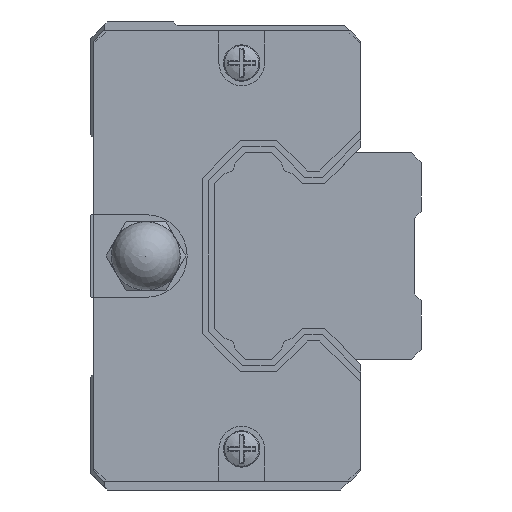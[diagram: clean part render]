
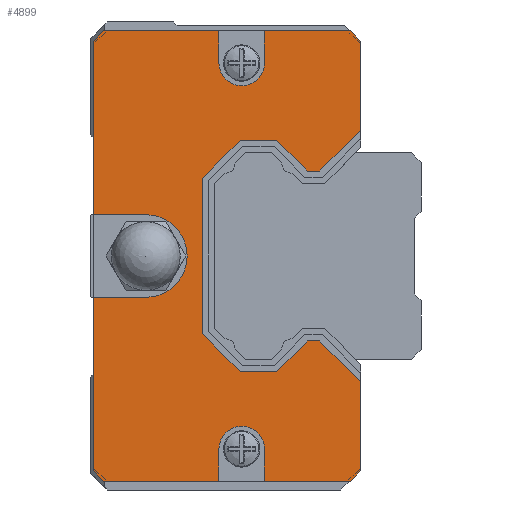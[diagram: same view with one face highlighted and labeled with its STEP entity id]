
A CAD part, left-side view. The second image highlights one B-rep face of the part: STEP entity #4899.
In plain terms, the highlighted planar face has unit normal (-1, 0, 0) as drawn and (1, 0, 0) by its records, which use the part's own axes.
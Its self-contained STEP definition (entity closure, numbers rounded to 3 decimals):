
#374=CIRCLE('',#5478,1.649);
#375=CIRCLE('',#5479,3.);
#376=CIRCLE('',#5480,1.649);
#586=FACE_OUTER_BOUND('',#944,.T.);
#944=EDGE_LOOP('',(#4057,#4058,#4059,#4060,#4061,#4062,#4063,#4064,#4065,
#4066,#4067,#4068,#4069,#4070,#4071,#4072,#4073,#4074,#4075,#4076,#4077,
#4078,#4079,#4080,#4081,#4082,#4083,#4084,#4085,#4086,#4087,#4088));
#1406=LINE('',#7994,#1915);
#1414=LINE('',#8007,#1923);
#1416=LINE('',#8011,#1925);
#1417=LINE('',#8013,#1926);
#1418=LINE('',#8015,#1927);
#1419=LINE('',#8017,#1928);
#1420=LINE('',#8019,#1929);
#1421=LINE('',#8021,#1930);
#1422=LINE('',#8023,#1931);
#1423=LINE('',#8025,#1932);
#1424=LINE('',#8027,#1933);
#1425=LINE('',#8029,#1934);
#1426=LINE('',#8030,#1935);
#1427=LINE('',#8032,#1936);
#1428=LINE('',#8034,#1937);
#1429=LINE('',#8036,#1938);
#1430=LINE('',#8040,#1939);
#1431=LINE('',#8042,#1940);
#1432=LINE('',#8044,#1941);
#1433=LINE('',#8046,#1942);
#1434=LINE('',#8048,#1943);
#1435=LINE('',#8052,#1944);
#1436=LINE('',#8054,#1945);
#1437=LINE('',#8056,#1946);
#1438=LINE('',#8058,#1947);
#1439=LINE('',#8060,#1948);
#1440=LINE('',#8064,#1949);
#1441=LINE('',#8066,#1950);
#1442=LINE('',#8067,#1951);
#1915=VECTOR('',#6550,1000.);
#1923=VECTOR('',#6560,1000.);
#1925=VECTOR('',#6564,1000.);
#1926=VECTOR('',#6565,1000.);
#1927=VECTOR('',#6566,1000.);
#1928=VECTOR('',#6567,1000.);
#1929=VECTOR('',#6568,1000.);
#1930=VECTOR('',#6569,1000.);
#1931=VECTOR('',#6570,1000.);
#1932=VECTOR('',#6571,1000.);
#1933=VECTOR('',#6572,1000.);
#1934=VECTOR('',#6573,1000.);
#1935=VECTOR('',#6574,1000.);
#1936=VECTOR('',#6575,1000.);
#1937=VECTOR('',#6576,1000.);
#1938=VECTOR('',#6577,1000.);
#1939=VECTOR('',#6580,1000.);
#1940=VECTOR('',#6581,1000.);
#1941=VECTOR('',#6582,1000.);
#1942=VECTOR('',#6583,1000.);
#1943=VECTOR('',#6584,1000.);
#1944=VECTOR('',#6587,1000.);
#1945=VECTOR('',#6588,1000.);
#1946=VECTOR('',#6589,1000.);
#1947=VECTOR('',#6590,1000.);
#1948=VECTOR('',#6591,1000.);
#1949=VECTOR('',#6594,1000.);
#1950=VECTOR('',#6595,1000.);
#1951=VECTOR('',#6596,1000.);
#2422=VERTEX_POINT('',#7991);
#2423=VERTEX_POINT('',#7993);
#2426=VERTEX_POINT('',#8004);
#2427=VERTEX_POINT('',#8006);
#2428=VERTEX_POINT('',#8010);
#2429=VERTEX_POINT('',#8012);
#2430=VERTEX_POINT('',#8014);
#2431=VERTEX_POINT('',#8016);
#2432=VERTEX_POINT('',#8018);
#2433=VERTEX_POINT('',#8020);
#2434=VERTEX_POINT('',#8022);
#2435=VERTEX_POINT('',#8024);
#2436=VERTEX_POINT('',#8026);
#2437=VERTEX_POINT('',#8028);
#2438=VERTEX_POINT('',#8031);
#2439=VERTEX_POINT('',#8033);
#2440=VERTEX_POINT('',#8035);
#2441=VERTEX_POINT('',#8037);
#2442=VERTEX_POINT('',#8039);
#2443=VERTEX_POINT('',#8041);
#2444=VERTEX_POINT('',#8043);
#2445=VERTEX_POINT('',#8045);
#2446=VERTEX_POINT('',#8047);
#2447=VERTEX_POINT('',#8049);
#2448=VERTEX_POINT('',#8051);
#2449=VERTEX_POINT('',#8053);
#2450=VERTEX_POINT('',#8055);
#2451=VERTEX_POINT('',#8057);
#2452=VERTEX_POINT('',#8059);
#2453=VERTEX_POINT('',#8061);
#2454=VERTEX_POINT('',#8063);
#2455=VERTEX_POINT('',#8065);
#2994=EDGE_CURVE('',#2423,#2422,#1406,.T.);
#3002=EDGE_CURVE('',#2427,#2426,#1414,.T.);
#3004=EDGE_CURVE('',#2428,#2422,#1416,.T.);
#3005=EDGE_CURVE('',#2429,#2428,#1417,.T.);
#3006=EDGE_CURVE('',#2430,#2429,#1418,.T.);
#3007=EDGE_CURVE('',#2431,#2430,#1419,.T.);
#3008=EDGE_CURVE('',#2432,#2431,#1420,.T.);
#3009=EDGE_CURVE('',#2433,#2432,#1421,.T.);
#3010=EDGE_CURVE('',#2434,#2433,#1422,.T.);
#3011=EDGE_CURVE('',#2435,#2434,#1423,.T.);
#3012=EDGE_CURVE('',#2436,#2435,#1424,.T.);
#3013=EDGE_CURVE('',#2437,#2436,#1425,.T.);
#3014=EDGE_CURVE('',#2427,#2437,#1426,.T.);
#3015=EDGE_CURVE('',#2426,#2438,#1427,.T.);
#3016=EDGE_CURVE('',#2438,#2439,#1428,.T.);
#3017=EDGE_CURVE('',#2440,#2439,#1429,.T.);
#3018=EDGE_CURVE('',#2441,#2440,#374,.T.);
#3019=EDGE_CURVE('',#2442,#2441,#1430,.T.);
#3020=EDGE_CURVE('',#2442,#2443,#1431,.T.);
#3021=EDGE_CURVE('',#2443,#2444,#1432,.T.);
#3022=EDGE_CURVE('',#2444,#2445,#1433,.T.);
#3023=EDGE_CURVE('',#2446,#2445,#1434,.T.);
#3024=EDGE_CURVE('',#2447,#2446,#375,.T.);
#3025=EDGE_CURVE('',#2448,#2447,#1435,.T.);
#3026=EDGE_CURVE('',#2448,#2449,#1436,.T.);
#3027=EDGE_CURVE('',#2449,#2450,#1437,.T.);
#3028=EDGE_CURVE('',#2450,#2451,#1438,.T.);
#3029=EDGE_CURVE('',#2452,#2451,#1439,.T.);
#3030=EDGE_CURVE('',#2453,#2452,#376,.T.);
#3031=EDGE_CURVE('',#2454,#2453,#1440,.T.);
#3032=EDGE_CURVE('',#2454,#2455,#1441,.T.);
#3033=EDGE_CURVE('',#2455,#2423,#1442,.T.);
#4057=ORIENTED_EDGE('',*,*,#3004,.F.);
#4058=ORIENTED_EDGE('',*,*,#3005,.F.);
#4059=ORIENTED_EDGE('',*,*,#3006,.F.);
#4060=ORIENTED_EDGE('',*,*,#3007,.F.);
#4061=ORIENTED_EDGE('',*,*,#3008,.F.);
#4062=ORIENTED_EDGE('',*,*,#3009,.F.);
#4063=ORIENTED_EDGE('',*,*,#3010,.F.);
#4064=ORIENTED_EDGE('',*,*,#3011,.F.);
#4065=ORIENTED_EDGE('',*,*,#3012,.F.);
#4066=ORIENTED_EDGE('',*,*,#3013,.F.);
#4067=ORIENTED_EDGE('',*,*,#3014,.F.);
#4068=ORIENTED_EDGE('',*,*,#3002,.T.);
#4069=ORIENTED_EDGE('',*,*,#3015,.T.);
#4070=ORIENTED_EDGE('',*,*,#3016,.T.);
#4071=ORIENTED_EDGE('',*,*,#3017,.F.);
#4072=ORIENTED_EDGE('',*,*,#3018,.F.);
#4073=ORIENTED_EDGE('',*,*,#3019,.F.);
#4074=ORIENTED_EDGE('',*,*,#3020,.T.);
#4075=ORIENTED_EDGE('',*,*,#3021,.T.);
#4076=ORIENTED_EDGE('',*,*,#3022,.T.);
#4077=ORIENTED_EDGE('',*,*,#3023,.F.);
#4078=ORIENTED_EDGE('',*,*,#3024,.F.);
#4079=ORIENTED_EDGE('',*,*,#3025,.F.);
#4080=ORIENTED_EDGE('',*,*,#3026,.T.);
#4081=ORIENTED_EDGE('',*,*,#3027,.T.);
#4082=ORIENTED_EDGE('',*,*,#3028,.T.);
#4083=ORIENTED_EDGE('',*,*,#3029,.F.);
#4084=ORIENTED_EDGE('',*,*,#3030,.F.);
#4085=ORIENTED_EDGE('',*,*,#3031,.F.);
#4086=ORIENTED_EDGE('',*,*,#3032,.T.);
#4087=ORIENTED_EDGE('',*,*,#3033,.T.);
#4088=ORIENTED_EDGE('',*,*,#2994,.T.);
#4644=PLANE('',#5477);
#4899=ADVANCED_FACE('',(#586),#4644,.T.);
#5477=AXIS2_PLACEMENT_3D('',#8009,#6562,#6563);
#5478=AXIS2_PLACEMENT_3D('',#8038,#6578,#6579);
#5479=AXIS2_PLACEMENT_3D('',#8050,#6585,#6586);
#5480=AXIS2_PLACEMENT_3D('',#8062,#6592,#6593);
#6550=DIRECTION('',(0.,0.,-1.));
#6560=DIRECTION('',(0.,0.,-1.));
#6562=DIRECTION('center_axis',(1.,0.,0.));
#6563=DIRECTION('ref_axis',(0.,0.,-1.));
#6564=DIRECTION('',(0.,-0.707,0.707));
#6565=DIRECTION('',(0.,-1.,0.));
#6566=DIRECTION('',(0.,-0.707,-0.707));
#6567=DIRECTION('',(0.,-1.,0.));
#6568=DIRECTION('',(0.,-0.707,0.707));
#6569=DIRECTION('',(0.,0.,1.));
#6570=DIRECTION('',(0.,0.707,0.707));
#6571=DIRECTION('',(0.,1.,0.));
#6572=DIRECTION('',(0.,0.707,-0.707));
#6573=DIRECTION('',(0.,1.,0.));
#6574=DIRECTION('',(0.,0.707,0.707));
#6575=DIRECTION('',(0.,0.707,-0.707));
#6576=DIRECTION('',(0.,1.,0.));
#6577=DIRECTION('',(0.,0.,-1.));
#6578=DIRECTION('center_axis',(1.,0.,0.));
#6579=DIRECTION('ref_axis',(0.,0.,-1.));
#6580=DIRECTION('',(0.,0.,1.));
#6581=DIRECTION('',(0.,1.,0.));
#6582=DIRECTION('',(0.,0.707,0.707));
#6583=DIRECTION('',(0.,0.,1.));
#6584=DIRECTION('',(0.,1.,0.));
#6585=DIRECTION('center_axis',(1.,0.,0.));
#6586=DIRECTION('ref_axis',(0.,0.,-1.));
#6587=DIRECTION('',(0.,-1.,0.));
#6588=DIRECTION('',(0.,0.,1.));
#6589=DIRECTION('',(0.,-0.707,0.707));
#6590=DIRECTION('',(0.,-1.,0.));
#6591=DIRECTION('',(0.,0.,1.));
#6592=DIRECTION('center_axis',(1.,0.,0.));
#6593=DIRECTION('ref_axis',(0.,0.,-1.));
#6594=DIRECTION('',(0.,0.,-1.));
#6595=DIRECTION('',(0.,-1.,0.));
#6596=DIRECTION('',(0.,-0.707,-0.707));
#7991=CARTESIAN_POINT('',(2.,4.4,9.148));
#7993=CARTESIAN_POINT('',(2.,4.4,15.617));
#7994=CARTESIAN_POINT('',(2.,4.4,15.617));
#8004=CARTESIAN_POINT('',(2.,4.4,-15.617));
#8006=CARTESIAN_POINT('',(2.,4.4,-9.148));
#8007=CARTESIAN_POINT('',(2.,4.4,15.617));
#8009=CARTESIAN_POINT('Origin',(2.,0.,0.));
#8010=CARTESIAN_POINT('',(2.,7.374,6.174));
#8011=CARTESIAN_POINT('',(2.,7.374,6.174));
#8012=CARTESIAN_POINT('',(2.,8.267,6.174));
#8013=CARTESIAN_POINT('',(2.,8.267,6.174));
#8014=CARTESIAN_POINT('',(2.,10.493,8.4));
#8015=CARTESIAN_POINT('',(2.,10.493,8.4));
#8016=CARTESIAN_POINT('',(2.,13.147,8.4));
#8017=CARTESIAN_POINT('',(2.,13.147,8.4));
#8018=CARTESIAN_POINT('',(2.,15.9,5.647));
#8019=CARTESIAN_POINT('',(2.,15.9,5.647));
#8020=CARTESIAN_POINT('',(2.,15.9,-5.647));
#8021=CARTESIAN_POINT('',(2.,15.9,-5.647));
#8022=CARTESIAN_POINT('',(2.,13.147,-8.4));
#8023=CARTESIAN_POINT('',(2.,13.147,-8.4));
#8024=CARTESIAN_POINT('',(2.,10.493,-8.4));
#8025=CARTESIAN_POINT('',(2.,10.493,-8.4));
#8026=CARTESIAN_POINT('',(2.,8.267,-6.174));
#8027=CARTESIAN_POINT('',(2.,8.267,-6.174));
#8028=CARTESIAN_POINT('',(2.,7.374,-6.174));
#8029=CARTESIAN_POINT('',(2.,7.374,-6.174));
#8030=CARTESIAN_POINT('',(2.,4.4,-9.148));
#8031=CARTESIAN_POINT('',(2.,5.133,-16.35));
#8032=CARTESIAN_POINT('',(2.,4.4,-15.617));
#8033=CARTESIAN_POINT('',(2.,11.391,-16.35));
#8034=CARTESIAN_POINT('',(2.,5.133,-16.35));
#8035=CARTESIAN_POINT('',(2.,11.391,-14.017));
#8036=CARTESIAN_POINT('',(2.,11.391,-14.017));
#8037=CARTESIAN_POINT('',(2.,14.689,-14.017));
#8038=CARTESIAN_POINT('Origin',(2.,13.04,-14.017));
#8039=CARTESIAN_POINT('',(2.,14.689,-16.35));
#8040=CARTESIAN_POINT('',(2.,14.689,0.));
#8041=CARTESIAN_POINT('',(2.,23.067,-16.35));
#8042=CARTESIAN_POINT('',(2.,5.133,-16.35));
#8043=CARTESIAN_POINT('',(2.,23.8,-15.617));
#8044=CARTESIAN_POINT('',(2.,23.067,-16.35));
#8045=CARTESIAN_POINT('',(2.,23.8,-3.));
#8046=CARTESIAN_POINT('',(2.,23.8,-15.617));
#8047=CARTESIAN_POINT('',(2.,20.,-3.));
#8048=CARTESIAN_POINT('',(2.,20.,-3.));
#8049=CARTESIAN_POINT('',(2.,20.,3.));
#8050=CARTESIAN_POINT('Origin',(2.,20.,0.));
#8051=CARTESIAN_POINT('',(2.,23.8,3.));
#8052=CARTESIAN_POINT('',(2.,23.8,3.));
#8053=CARTESIAN_POINT('',(2.,23.8,15.617));
#8054=CARTESIAN_POINT('',(2.,23.8,-15.617));
#8055=CARTESIAN_POINT('',(2.,23.067,16.35));
#8056=CARTESIAN_POINT('',(2.,23.8,15.617));
#8057=CARTESIAN_POINT('',(2.,14.689,16.35));
#8058=CARTESIAN_POINT('',(2.,23.067,16.35));
#8059=CARTESIAN_POINT('',(2.,14.689,14.017));
#8060=CARTESIAN_POINT('',(2.,14.689,14.017));
#8061=CARTESIAN_POINT('',(2.,11.391,14.017));
#8062=CARTESIAN_POINT('Origin',(2.,13.04,14.017));
#8063=CARTESIAN_POINT('',(2.,11.391,16.35));
#8064=CARTESIAN_POINT('',(2.,11.391,16.35));
#8065=CARTESIAN_POINT('',(2.,5.133,16.35));
#8066=CARTESIAN_POINT('',(2.,23.067,16.35));
#8067=CARTESIAN_POINT('',(2.,5.133,16.35));
